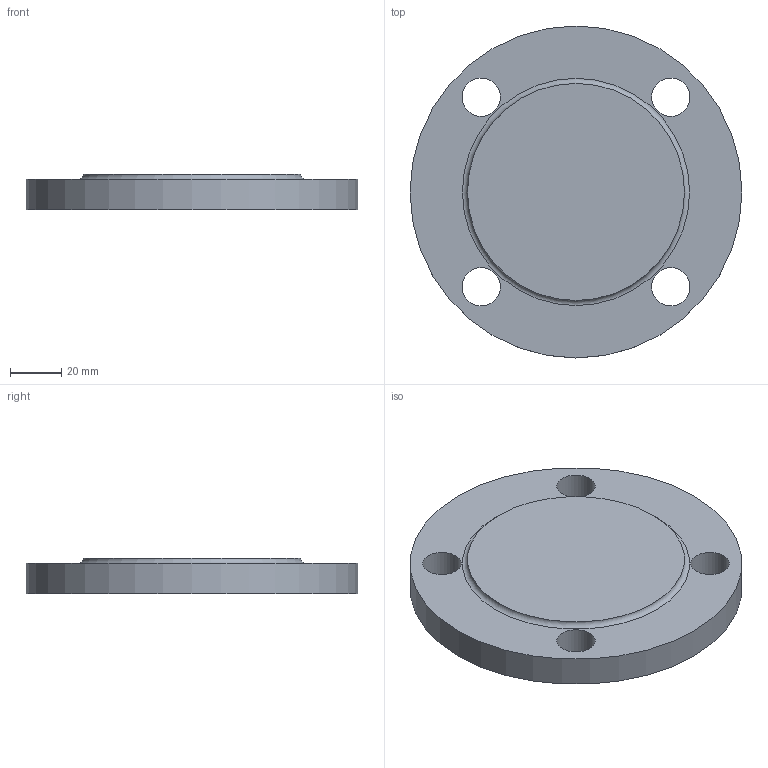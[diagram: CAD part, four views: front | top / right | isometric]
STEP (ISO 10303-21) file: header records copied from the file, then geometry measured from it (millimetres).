
FILE_DESCRIPTION(/* description */ (''),/* implementation_level */ '2;1');
FILE_NAME(/* name */ 'C:\Users\D\Documents\Inventor\HP\JIS\フランジ\JIS 5k bl rf\jis5k-bl-rf-50.stp',/* time_stamp */ '2024-09-12T16:52:23+09:00',/* author */ ('D'),/* organization */ (''),/* preprocessor_version */ 'ST-DEVELOPER v18',/* originating_system */ 'Autodesk Inventor 2020',/* authorisation */ '');
FILE_SCHEMA (('AUTOMOTIVE_DESIGN { 1 0 10303 214 3 1 1 }'));
Length unit declared in the file: millimetre
Products named in the file (1): jis5k-sop-rf-10
Bounding box: 130 x 130 x 14 mm (x, y, z)
Volume: 162377.1 mm3; surface area: 32602.2 mm2
Topology: 1 solids, 1 shells, 9 faces, 22 edges, 16 vertices
Faces by surface type: cylinder 5, plane 3, torus 1
Full cylindrical faces by diameter (mm): 15 x4, 130 x1
Entity records: 342 total; most frequent: DIRECTION 59, CARTESIAN_POINT 48, ORIENTED_EDGE 44, AXIS2_PLACEMENT_3D 27, EDGE_CURVE 22, EDGE_LOOP 18, CIRCLE 17, VERTEX_POINT 16
